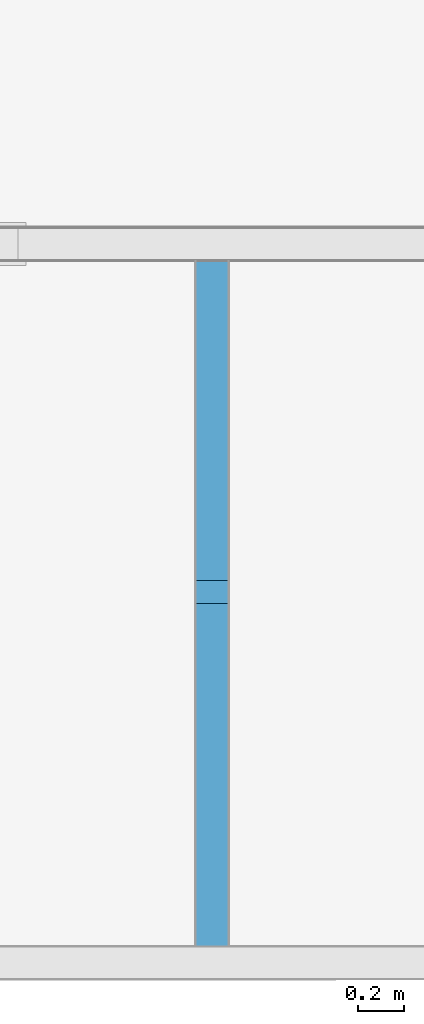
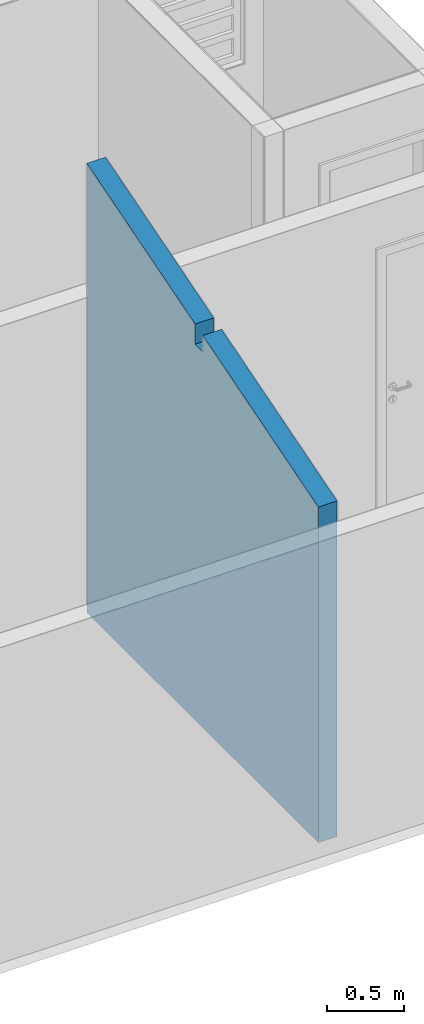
# One storey, part 2 of 7: 1 building element part, 1 element without a shape of its own.
"""IFC2X3 building model written with IfcOpenShell, lengths in millimetres."""

from ifc_helpers import new_model, entity, si_unit, converted_unit, derived_unit, money_unit, direction, frame, origin_with_axes, place, context, subcontext, project, spatial, polyline, outline, extrude, boolean, faceted_brep, material, type_object, element, aggregate, save


model = new_model("IFC2X3")

# Units and contexts
model_context = context("Model", 3, precision=0.01, world=origin_with_axes(), true_north=direction((0.0, 1.0)))
body_context = subcontext(model_context, "Body", "Model", "MODEL_VIEW")
ifc_project = project(units=[si_unit("LENGTHUNIT", "METRE", prefix="MILLI"), si_unit("AREAUNIT", "SQUARE_METRE"), si_unit("VOLUMEUNIT", "CUBIC_METRE"), converted_unit("PLANEANGLEUNIT", "DEGREE", entity("IfcPlaneAngleMeasure", 0.0174532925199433), si_unit("PLANEANGLEUNIT", "RADIAN"), dimensions=[0, 0, 0, 0, 0, 0, 0]), money_unit("USD"), converted_unit("TIMEUNIT", "Year", entity("IfcTimeMeasure", 31557600.0), si_unit("TIMEUNIT", "SECOND"), dimensions=[0, 0, 1, 0, 0, 0, 0]), si_unit("MASSUNIT", "GRAM", prefix="KILO"), si_unit("THERMODYNAMICTEMPERATUREUNIT", "DEGREE_CELSIUS"), si_unit("LUMINOUSINTENSITYUNIT", "LUMEN"), si_unit("ENERGYUNIT", "JOULE", prefix="MEGA"), derived_unit("THERMALCONDUCTANCEUNIT", [(si_unit("POWERUNIT", "WATT"), 1), (si_unit("LENGTHUNIT", "METRE"), -1), (si_unit("THERMODYNAMICTEMPERATUREUNIT", "KELVIN"), -1)]), derived_unit("SPECIFICHEATCAPACITYUNIT", [(si_unit("ENERGYUNIT", "JOULE"), 1), (si_unit("MASSUNIT", "GRAM", prefix="KILO"), -1), (si_unit("THERMODYNAMICTEMPERATUREUNIT", "KELVIN"), -1)]), derived_unit("MASSDENSITYUNIT", [(si_unit("MASSUNIT", "GRAM", prefix="KILO"), 1), (si_unit("VOLUMEUNIT", "CUBIC_METRE"), -1)])], contexts=[model_context])

# Site, building, storey
site_placement = place(None, origin_with_axes())
site = spatial("IfcSite", under=ifc_project, at=site_placement, Name="Local", CompositionType="ELEMENT")
building_placement = place(site_placement, origin_with_axes())
building = spatial("IfcBuilding", under=site, at=building_placement, Name="Construção", CompositionType="ELEMENT")
storey_placement = place(building_placement, origin_with_axes())
storey = spatial("IfcBuildingStorey", under=building, at=storey_placement, Name="Pavimento Térreo", CompositionType="ELEMENT", Elevation=0.0)

# Wall, building element part
wall_type = type_object("IfcWallType", Name="Alvenaria 140, Rebocada 2 Faces 150", PredefinedType="NOTDEFINED")
wall_placement = place(storey_placement, frame((3299.999999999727, 149.9999999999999, 0.0), z_axis=(0.0, 0.0, 1.0), x_axis=(0.0, 1.0, 0.0)))
wall = element("IfcWall", 1, at=wall_placement, inside=storey, type_object=wall_type, Name="Parede-06")
ifc_material = material(Name="Bloco de Concreto - Estrutural DEF")
building_element_part_placement = place(wall_placement, origin_with_axes())
building_element_part = element("IfcBuildingElementPart", 2, at=building_element_part_placement, material=ifc_material, Name="Bloco de Concreto - Estrutural DEF", context=body_context, shape_type="CSG", body=[
    boolean("DIFFERENCE", boolean("DIFFERENCE", boolean("DIFFERENCE", boolean("DIFFERENCE", boolean("DIFFERENCE", boolean("DIFFERENCE", extrude(outline(polyline([(0.0, 4.999999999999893), (3005.000000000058, 4.999999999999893), (3005.000000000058, 145.0), (0.0, 145.0), (0.0, 4.999999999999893)])), origin_with_axes(), (0.0, 0.0, 1.0), 5897.788795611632), faceted_brep([(3005.000000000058, 0.0, 2500.0), (3005.000000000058, 4.999999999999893, 2500.0), (3005.000000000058, 4.999999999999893, 2580.0), (3005.000000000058, 0.0, 2580.0), (2999.999999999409, 0.0, 2500.0), (2999.999999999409, 5.000000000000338, 2500.0), (2999.999999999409, 5.000000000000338, 2580.0), (2999.999999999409, 0.0, 2580.0)], [[[0, 1, 2, 3]], [[1, 0, 4, 5]], [[6, 2, 1, 5]], [[7, 3, 2, 6]], [[4, 0, 3, 7]], [[4, 7, 6, 5]]])), faceted_brep([(1600.000000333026, 0.0, 2980.451740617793), (1600.000000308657, 0.0, 3140.451740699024), (3005.000000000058, 0.0, 3561.951740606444), (3005.000000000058, 0.0, 5897.788795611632), (0.0, 0.0, 5897.788795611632), (0.0, 0.0, 2660.451740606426), (1500.000000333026, 0.0, 3110.451740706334), (1500.000000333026, 0.0, 2980.451740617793), (1600.000000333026, 5.000000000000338, 2980.451740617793), (1600.000000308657, 5.000000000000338, 3140.451740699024), (3005.000000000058, 4.999999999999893, 3561.951740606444), (3005.000000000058, 4.999999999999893, 5897.788795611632), (0.0, 4.999999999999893, 5897.788795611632), (0.0, 4.999999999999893, 2660.451740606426), (1500.000000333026, 5.000000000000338, 3110.451740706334), (1500.000000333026, 5.000000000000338, 2980.451740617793)], [[[0, 1, 2, 3, 4, 5, 6, 7]], [[1, 0, 8, 9]], [[10, 2, 1, 9]], [[2, 10, 11, 3]], [[12, 4, 3, 11]], [[13, 5, 4, 12]], [[6, 5, 13, 14]], [[7, 6, 14, 15]], [[0, 7, 15, 8]], [[14, 13, 12, 11, 10, 9, 8, 15]]])), faceted_brep([(3005.000000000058, 4.999999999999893, 2500.0), (3005.000000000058, 145.0, 2500.0), (3005.000000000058, 145.0, 2580.0), (3005.000000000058, 4.999999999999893, 2580.0), (2999.999999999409, 5.000000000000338, 2500.0), (2999.999999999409, 145.0000000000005, 2500.0), (2999.999999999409, 145.0000000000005, 2580.0), (2999.999999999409, 5.000000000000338, 2580.0)], [[[0, 1, 2, 3]], [[1, 0, 4, 5]], [[6, 2, 1, 5]], [[3, 2, 6, 7]], [[4, 0, 3, 7]], [[6, 5, 4, 7]]])), faceted_brep([(1600.000000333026, 5.000000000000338, 2980.451740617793), (1600.000000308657, 5.000000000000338, 3140.451740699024), (3005.000000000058, 4.999999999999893, 3561.951740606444), (3005.000000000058, 4.999999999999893, 5897.788795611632), (0.0, 4.999999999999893, 5897.788795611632), (0.0, 4.999999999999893, 2660.451740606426), (1500.000000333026, 5.000000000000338, 3110.451740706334), (1500.000000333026, 5.000000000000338, 2980.451740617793), (1600.000000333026, 145.0000000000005, 2980.451740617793), (1600.000000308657, 145.0000000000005, 3140.451740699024), (3005.000000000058, 145.0, 3561.951740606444), (3005.000000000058, 145.0, 5897.788795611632), (0.0, 145.0, 5897.788795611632), (0.0, 145.0, 2660.451740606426), (1500.000000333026, 145.0000000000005, 3110.451740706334), (1500.000000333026, 145.0000000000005, 2980.451740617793)], [[[0, 1, 2, 3, 4, 5, 6, 7]], [[1, 0, 8, 9]], [[10, 2, 1, 9]], [[2, 10, 11, 3]], [[12, 4, 3, 11]], [[13, 5, 4, 12]], [[6, 5, 13, 14]], [[14, 15, 7, 6]], [[15, 8, 0, 7]], [[14, 13, 12, 11, 10, 9, 8, 15]]])), faceted_brep([(3005.000000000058, 145.0, 2500.0), (3005.000000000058, 149.9999999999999, 2500.0), (3005.000000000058, 149.9999999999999, 2580.0), (3005.000000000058, 145.0, 2580.0), (2999.999999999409, 145.0000000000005, 2500.0), (2999.999999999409, 150.0000000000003, 2500.0), (2999.999999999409, 150.0000000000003, 2580.0), (2999.999999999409, 145.0000000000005, 2580.0)], [[[0, 1, 2, 3]], [[1, 0, 4, 5]], [[6, 2, 1, 5]], [[3, 2, 6, 7]], [[4, 0, 3, 7]], [[6, 5, 4, 7]]])), faceted_brep([(1600.000000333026, 145.0000000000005, 2980.451740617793), (1600.000000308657, 145.0000000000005, 3140.451740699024), (3005.000000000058, 145.0, 3561.951740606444), (3005.000000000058, 145.0, 5897.788795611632), (0.0, 145.0, 5897.788795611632), (0.0, 145.0, 2660.451740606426), (1500.000000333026, 145.0000000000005, 3110.451740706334), (1500.000000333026, 145.0000000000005, 2980.451740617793), (1600.000000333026, 150.0000000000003, 2980.451740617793), (1600.000000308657, 150.0000000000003, 3140.451740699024), (3005.000000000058, 149.9999999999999, 3561.951740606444), (3005.000000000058, 149.9999999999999, 5897.788795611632), (0.0, 149.9999999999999, 5897.788795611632), (0.0, 149.9999999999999, 2660.451740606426), (1500.000000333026, 150.0000000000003, 3110.451740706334), (1500.000000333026, 150.0000000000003, 2980.451740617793)], [[[0, 1, 2, 3, 4, 5, 6, 7]], [[8, 9, 1, 0]], [[10, 2, 1, 9]], [[2, 10, 11, 3]], [[12, 4, 3, 11]], [[13, 5, 4, 12]], [[6, 5, 13, 14]], [[14, 15, 7, 6]], [[15, 8, 0, 7]], [[14, 13, 12, 11, 10, 9, 8, 15]]])),
])
aggregate(wall, [building_element_part])

save(model, "model.ifc")
